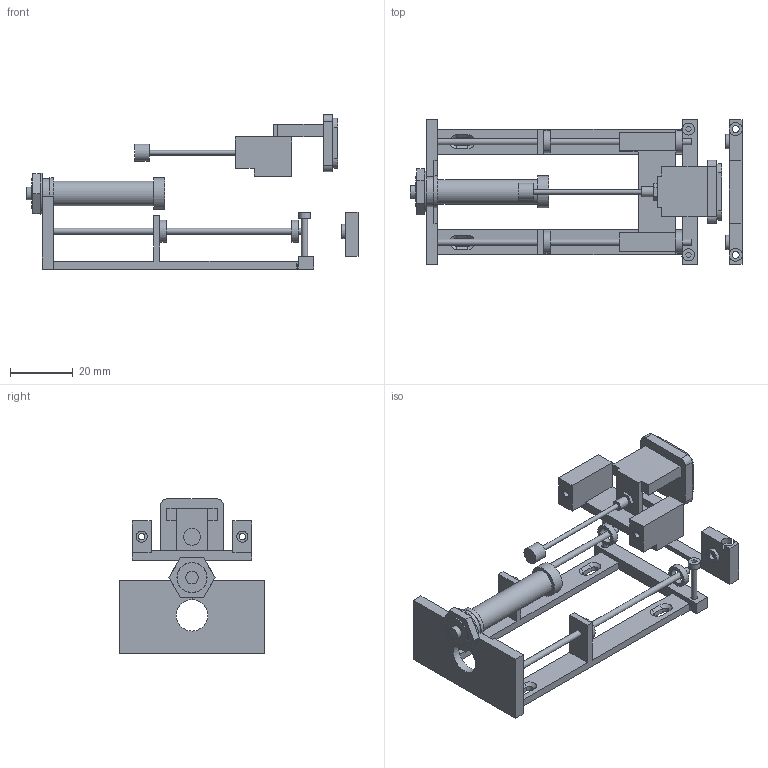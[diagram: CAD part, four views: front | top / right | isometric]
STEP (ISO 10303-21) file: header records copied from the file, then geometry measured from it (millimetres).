
FILE_DESCRIPTION(('Open CASCADE Model'),'2;1');
FILE_NAME('Open CASCADE Shape Model','2026-09-09T10:24:08',('Author'),( 'Open CASCADE'),'Open CASCADE STEP processor 7.8','Open CASCADE 7.8' ,'Unknown');
FILE_SCHEMA(('AUTOMOTIVE_DESIGN { 1 0 10303 214 1 1 1 1 }'));
Length unit declared in the file: millimetre
Products named in the file (28): LightBender_Airpot_22mm_V1; P01_Base_rear_flange; P02_Front_bridge; P03_Carriage_contact_head; P04_Contact_pad; B01_Shaft_L; B02_igus_GSM020303_L1; B02_igus_GSM020303_L2; P05_Bumper_L_rear; P05_Bumper_L_front; B01_Shaft_R; B02_igus_GSM020303_R1; B02_igus_GSM020303_R2; P05_Bumper_R_rear; P05_Bumper_R_front; B03_Airpot_glass_envelope; B04_Airpot_head_thread_envelope; B05_Airpot_front_cap; B06_Airpot_adjuster_envelope; B07_Airpot_mount_washer; B08_Airpot_mount_nut; B09_Airpot_piston_NF_rod; B10_NF_lockwasher; B11_NF_2_64_nut; B12_M2x16_L; B13_M2_nut_L; B12_M2x16_R; B13_M2_nut_R
Assembly tree (27 placements, depth 2):
  LightBender_Airpot_22mm_V1
    P01_Base_rear_flange
    P02_Front_bridge
    P03_Carriage_contact_head
    P04_Contact_pad
    B01_Shaft_L
    B02_igus_GSM020303_L1
    B02_igus_GSM020303_L2
    P05_Bumper_L_rear
    P05_Bumper_L_front
    B01_Shaft_R
    B02_igus_GSM020303_R1
    B02_igus_GSM020303_R2
    P05_Bumper_R_rear
    P05_Bumper_R_front
    B03_Airpot_glass_envelope
    B04_Airpot_head_thread_envelope
    B05_Airpot_front_cap
    B06_Airpot_adjuster_envelope
    B07_Airpot_mount_washer
    B08_Airpot_mount_nut
    B09_Airpot_piston_NF_rod
    B10_NF_lockwasher
    B11_NF_2_64_nut
    B12_M2x16_L
    B13_M2_nut_L
    B12_M2x16_R
    B13_M2_nut_R
Bounding box: 105.56 x 46 x 49 mm (x, y, z)
Volume: 17541.7 mm3; surface area: 19315.9 mm2
Topology: 27 solids, 28 shells, 321 faces, 701 edges, 462 vertices
Faces by surface type: plane 224, cylinder 89, cone 8
Full cylindrical faces by diameter (mm): 1 x1, 1.473 x1, 2 x5, 2.034 x4, 2.04 x4, 2.1 x2, 2.184 x1, 2.2 x4, 2.22 x2, 2.3 x2, 2.4 x6, 2.5 x1, 3.2 x1, 3.5 x8, 3.8 x2, 4 x1, 4.572 x1, 4.6 x5, 4.9 x4, 5.4 x1, 5.588 x1, 7 x4, 7.899 x1, 9.525 x1, 9.6 x2, 10 x1, 10.16 x2, 13 x1
Entity records: 18592 total; most frequent: CARTESIAN_POINT 3430, DIRECTION 2716, LINE 1517, VECTOR 1517, ORIENTED_EDGE 1402, PCURVE 1402, DEFINITIONAL_REPRESENTATION 1402, EDGE_CURVE 701
